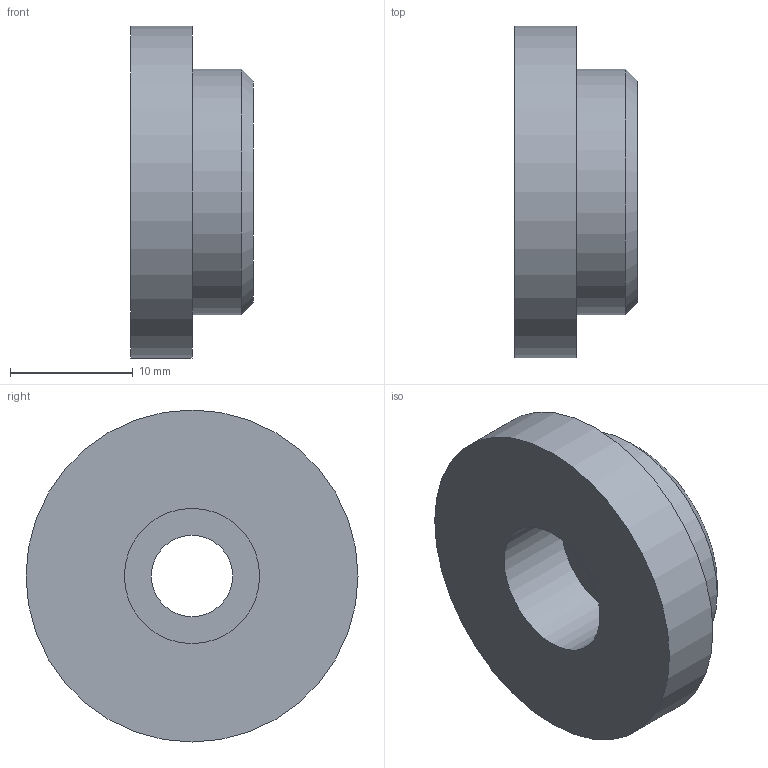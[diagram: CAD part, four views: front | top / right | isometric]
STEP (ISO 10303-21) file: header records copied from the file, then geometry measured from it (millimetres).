
FILE_DESCRIPTION(/* description */ (''),/* implementation_level */ '2;1');
FILE_NAME(/* name */ '',/* time_stamp */ '2026-01-09T11:18:56+09:00',/* author */ ('jhkim'),/* organization */ (''),/* preprocessor_version */ 'ST-DEVELOPER v20.1',/* originating_system */ 'Autodesk Inventor 2026',/* authorisation */ '');
FILE_SCHEMA (('AUTOMOTIVE_DESIGN { 1 0 10303 214 3 1 1 }'));
Length unit declared in the file: millimetre
Products named in the file (1): 엔드캡
Bounding box: 10 x 27 x 27 mm (x, y, z)
Volume: 3659.7 mm3; surface area: 2075.4 mm2
Topology: 1 solids, 1 shells, 9 faces, 15 edges, 10 vertices
Faces by surface type: plane 4, cylinder 4, cone 1
Full cylindrical faces by diameter (mm): 6.6 x1, 11 x1, 20 x1, 27 x1
Entity records: 266 total; most frequent: DIRECTION 45, CARTESIAN_POINT 35, ORIENTED_EDGE 30, AXIS2_PLACEMENT_3D 20, EDGE_CURVE 15, EDGE_LOOP 13, CIRCLE 10, VERTEX_POINT 10
